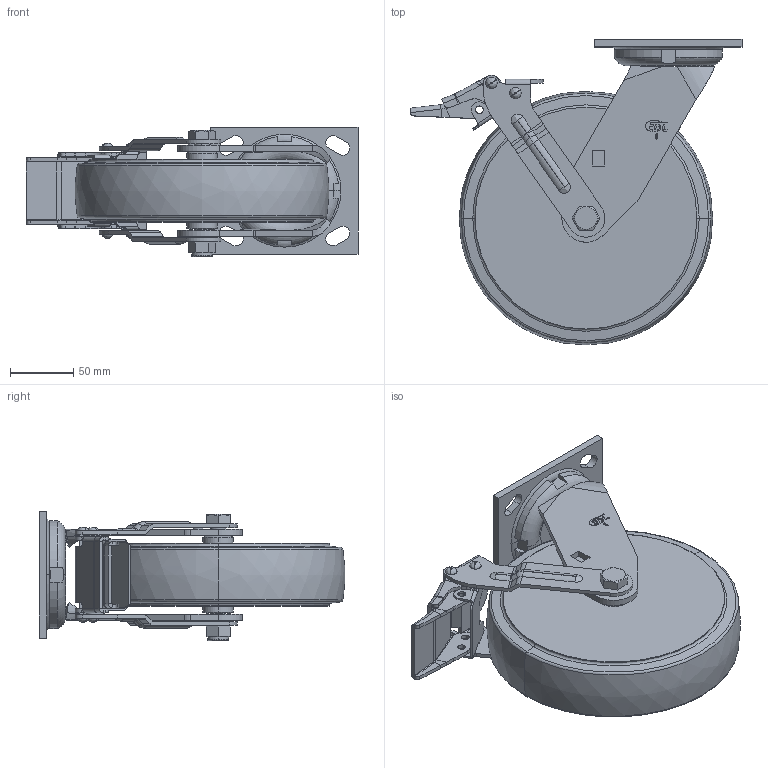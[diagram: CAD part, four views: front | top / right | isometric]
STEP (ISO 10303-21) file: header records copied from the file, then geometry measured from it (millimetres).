
FILE_DESCRIPTION((''),'2;1');
FILE_NAME('73128E-738-86_ASM','2020-12-01T',('lenovo'),(''),'PRO/ENGINEER BY PARAMETRIC TECHNOLOGY CORPORATION, 2010280','PRO/ENGINEER BY PARAMETRIC TECHNOLOGY CORPORATION, 2010280','');
FILE_SCHEMA(('CONFIG_CONTROL_DESIGN'));
Length unit declared in the file: millimetre
Products named in the file (13): 7310-201; 7310-211; 7318-353; 7318-311_ASM; 7318-535; 700-142; 700E-13_; 700-141; 738EE_ASM; 738-86; 7010-33-1; 7010-34; 73128E-738-86_ASM
Assembly tree (12 placements, depth 3):
  73128E-738-86_ASM
    7310-201
    7318-311_ASM
      7310-211
      7318-353
    738EE_ASM
      7318-535
      700-142
      700E-13_
      700-141
    738-86
    7010-33-1
    7010-34
Bounding box: 261.76 x 240.83 x 102 mm (x, y, z)
Volume: 1794772.7 mm3; surface area: 222544.5 mm2
Topology: 11 solids, 11 shells, 721 faces, 1774 edges, 1090 vertices
Faces by surface type: plane 353, cylinder 210, torus 66, bspline 66, cone 22, sphere 4
Entity records: 23918 total; most frequent: CARTESIAN_POINT 6615, DIRECTION 3570, ORIENTED_EDGE 3540, EDGE_CURVE 1770, AXIS2_PLACEMENT_3D 1254, VERTEX_POINT 1090, VECTOR 1062, LINE 1062
